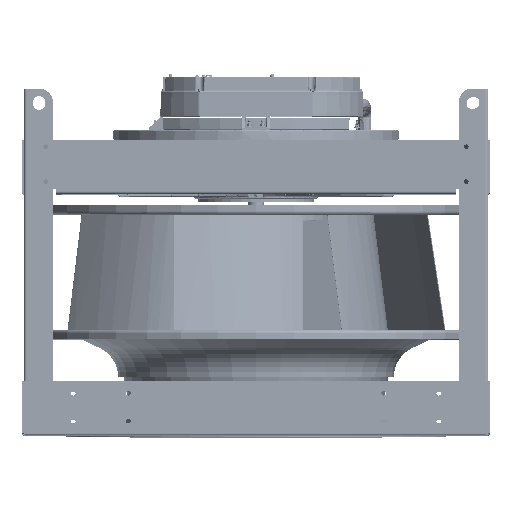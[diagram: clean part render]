
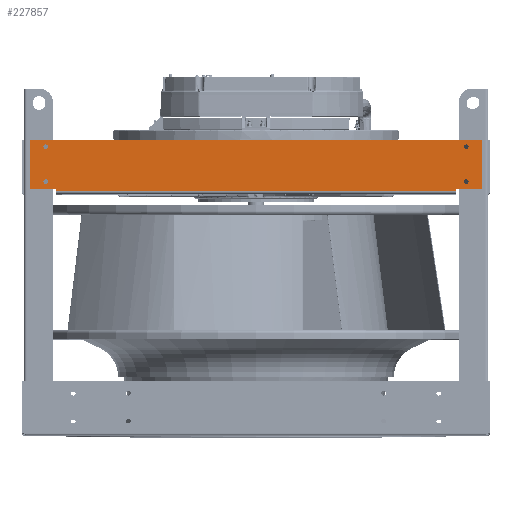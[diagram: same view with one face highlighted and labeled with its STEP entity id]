
A CAD part, top view. The second image highlights one B-rep face of the part: STEP entity #227857.
In plain terms, the highlighted planar face has unit normal (0, 0, 1).
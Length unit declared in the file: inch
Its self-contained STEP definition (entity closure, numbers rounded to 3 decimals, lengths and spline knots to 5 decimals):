
#4130 = VECTOR ( 'NONE', #214966, 39.37008 ) ;
#4233 = VERTEX_POINT ( 'NONE', #88463 ) ;
#7674 = DIRECTION ( 'NONE',  ( 0., 0., 1. ) ) ;
#8712 = DIRECTION ( 'NONE',  ( -1., 0., 0. ) ) ;
#8824 = EDGE_CURVE ( 'NONE', #4233, #4233, #214598, .T. ) ;
#17855 = ORIENTED_EDGE ( 'NONE', *, *, #131734, .T. ) ;
#23976 = CARTESIAN_POINT ( 'NONE',  ( 0., 0., 0.135 ) ) ;
#24512 = CARTESIAN_POINT ( 'NONE',  ( -14.545, 1.77, 0.135 ) ) ;
#24676 = VERTEX_POINT ( 'NONE', #86783 ) ;
#26705 = DIRECTION ( 'NONE',  ( 0., 0., -1. ) ) ;
#34194 = CARTESIAN_POINT ( 'NONE',  ( 15.295, 1.27, 0.135 ) ) ;
#40634 = LINE ( 'NONE', #123502, #140418 ) ;
#41977 = FACE_OUTER_BOUND ( 'NONE', #240468, .T. ) ;
#42560 = LINE ( 'NONE', #248442, #221996 ) ;
#47063 = ORIENTED_EDGE ( 'NONE', *, *, #168185, .T. ) ;
#55496 = CARTESIAN_POINT ( 'NONE',  ( -14.545, 1.9775, 0.135 ) ) ;
#56812 = VECTOR ( 'NONE', #266251, 39.37008 ) ;
#58080 = ORIENTED_EDGE ( 'NONE', *, *, #172983, .T. ) ;
#60918 = DIRECTION ( 'NONE',  ( 1., 0., 0. ) ) ;
#64077 = VERTEX_POINT ( 'NONE', #166260 ) ;
#70086 = DIRECTION ( 'NONE',  ( 0., -1., 0. ) ) ;
#74316 = CARTESIAN_POINT ( 'NONE',  ( -16.455, 1.77, 0.135 ) ) ;
#78828 = CARTESIAN_POINT ( 'NONE',  ( 14.545, 1.77, 0.135 ) ) ;
#79857 = AXIS2_PLACEMENT_3D ( 'NONE', #23976, #26705, #86131 ) ;
#80155 = ORIENTED_EDGE ( 'NONE', *, *, #188634, .T. ) ;
#80830 = CARTESIAN_POINT ( 'NONE',  ( 14.545, 1.9775, 0.135 ) ) ;
#81274 = DIRECTION ( 'NONE',  ( 0., 1., 0. ) ) ;
#81498 = AXIS2_PLACEMENT_3D ( 'NONE', #108594, #7674, #87841 ) ;
#81636 = CARTESIAN_POINT ( 'NONE',  ( -15.295, 1.27, 0.135 ) ) ;
#81750 = EDGE_CURVE ( 'NONE', #243969, #94156, #243336, .T. ) ;
#83779 = AXIS2_PLACEMENT_3D ( 'NONE', #34194, #270287, #97719 ) ;
#84530 = DIRECTION ( 'NONE',  ( -1., 0., 0. ) ) ;
#86131 = DIRECTION ( 'NONE',  ( -1., 0., 0. ) ) ;
#86540 = LINE ( 'NONE', #253722, #4130 ) ;
#86783 = CARTESIAN_POINT ( 'NONE',  ( -16.455, 1.77, 0.135 ) ) ;
#87841 = DIRECTION ( 'NONE',  ( 1., 0., 0. ) ) ;
#88463 = CARTESIAN_POINT ( 'NONE',  ( -15.467, -1.27, 0.135 ) ) ;
#88867 = CARTESIAN_POINT ( 'NONE',  ( -15.295, -1.27, 0.135 ) ) ;
#93483 = LINE ( 'NONE', #180450, #192106 ) ;
#93983 = CARTESIAN_POINT ( 'NONE',  ( -16.455, -1.77, 0.135 ) ) ;
#94156 = VERTEX_POINT ( 'NONE', #24512 ) ;
#97719 = DIRECTION ( 'NONE',  ( -1., 0., 0. ) ) ;
#98165 = AXIS2_PLACEMENT_3D ( 'NONE', #81636, #107803, #60918 ) ;
#107803 = DIRECTION ( 'NONE',  ( 0., 0., 1. ) ) ;
#108594 = CARTESIAN_POINT ( 'NONE',  ( 15.295, -1.27, 0.135 ) ) ;
#109778 = ORIENTED_EDGE ( 'NONE', *, *, #122905, .T. ) ;
#118469 = LINE ( 'NONE', #74316, #56812 ) ;
#120004 = EDGE_CURVE ( 'NONE', #64077, #64077, #199495, .T. ) ;
#122905 = EDGE_CURVE ( 'NONE', #230942, #136012, #42560, .T. ) ;
#123502 = CARTESIAN_POINT ( 'NONE',  ( 14.545, 1.9775, 0.135 ) ) ;
#128665 = LINE ( 'NONE', #211603, #150579 ) ;
#131339 = ORIENTED_EDGE ( 'NONE', *, *, #8824, .F. ) ;
#131734 = EDGE_CURVE ( 'NONE', #180287, #243969, #40634, .T. ) ;
#135646 = VERTEX_POINT ( 'NONE', #199215 ) ;
#136012 = VERTEX_POINT ( 'NONE', #152970 ) ;
#140418 = VECTOR ( 'NONE', #227129, 39.37008 ) ;
#146853 = VERTEX_POINT ( 'NONE', #78828 ) ;
#150579 = VECTOR ( 'NONE', #84530, 39.37008 ) ;
#150660 = ORIENTED_EDGE ( 'NONE', *, *, #81750, .T. ) ;
#152970 = CARTESIAN_POINT ( 'NONE',  ( 16.455, 1.77, 0.135 ) ) ;
#165370 = EDGE_LOOP ( 'NONE', ( #131339 ) ) ;
#166260 = CARTESIAN_POINT ( 'NONE',  ( -15.123, 1.27, 0.135 ) ) ;
#167509 = VECTOR ( 'NONE', #179768, 39.37008 ) ;
#168185 = EDGE_CURVE ( 'NONE', #24676, #236136, #86540, .T. ) ;
#170358 = PLANE ( 'NONE',  #79857 ) ;
#172983 = EDGE_CURVE ( 'NONE', #136012, #146853, #128665, .T. ) ;
#174717 = EDGE_LOOP ( 'NONE', ( #208022 ) ) ;
#175728 = ORIENTED_EDGE ( 'NONE', *, *, #222078, .T. ) ;
#179768 = DIRECTION ( 'NONE',  ( 0., -1., 0. ) ) ;
#180287 = VERTEX_POINT ( 'NONE', #80830 ) ;
#180450 = CARTESIAN_POINT ( 'NONE',  ( 14.545, 1.9775, 0.135 ) ) ;
#180917 = CARTESIAN_POINT ( 'NONE',  ( -16.455, -1.77, 0.135 ) ) ;
#182464 = ORIENTED_EDGE ( 'NONE', *, *, #228877, .F. ) ;
#188323 = CARTESIAN_POINT ( 'NONE',  ( 15.123, 1.27, 0.135 ) ) ;
#188634 = EDGE_CURVE ( 'NONE', #236136, #230942, #198991, .T. ) ;
#192106 = VECTOR ( 'NONE', #70086, 39.37008 ) ;
#198991 = LINE ( 'NONE', #93983, #204958 ) ;
#199215 = CARTESIAN_POINT ( 'NONE',  ( 15.467, -1.27, 0.135 ) ) ;
#199495 = CIRCLE ( 'NONE', #98165, 0.172 ) ;
#204958 = VECTOR ( 'NONE', #262537, 39.37008 ) ;
#207606 = ORIENTED_EDGE ( 'NONE', *, *, #260621, .F. ) ;
#208022 = ORIENTED_EDGE ( 'NONE', *, *, #257850, .F. ) ;
#209458 = CIRCLE ( 'NONE', #81498, 0.172 ) ;
#211603 = CARTESIAN_POINT ( 'NONE',  ( -16.455, 1.77, 0.135 ) ) ;
#213184 = FACE_BOUND ( 'NONE', #165370, .T. ) ;
#214598 = CIRCLE ( 'NONE', #223471, 0.172 ) ;
#214966 = DIRECTION ( 'NONE',  ( 0., -1., 0. ) ) ;
#215917 = FACE_BOUND ( 'NONE', #219757, .T. ) ;
#215948 = DIRECTION ( 'NONE',  ( 0., 0., 1. ) ) ;
#218767 = EDGE_LOOP ( 'NONE', ( #255409 ) ) ;
#219757 = EDGE_LOOP ( 'NONE', ( #182464 ) ) ;
#221996 = VECTOR ( 'NONE', #81274, 39.37008 ) ;
#222078 = EDGE_CURVE ( 'NONE', #94156, #24676, #118469, .T. ) ;
#223471 = AXIS2_PLACEMENT_3D ( 'NONE', #88867, #215948, #8712 ) ;
#224969 = CIRCLE ( 'NONE', #83779, 0.172 ) ;
#227129 = DIRECTION ( 'NONE',  ( -1., 0., 0. ) ) ;
#227857 = ADVANCED_FACE ( 'NONE', ( #41977, #213184, #256023, #257358, #215917 ), #170358, .F. ) ;
#228877 = EDGE_CURVE ( 'NONE', #229796, #229796, #224969, .T. ) ;
#229796 = VERTEX_POINT ( 'NONE', #188323 ) ;
#230942 = VERTEX_POINT ( 'NONE', #268281 ) ;
#236136 = VERTEX_POINT ( 'NONE', #180917 ) ;
#240468 = EDGE_LOOP ( 'NONE', ( #47063, #80155, #109778, #58080, #207606, #17855, #150660, #175728 ) ) ;
#243336 = LINE ( 'NONE', #55496, #167509 ) ;
#243969 = VERTEX_POINT ( 'NONE', #259415 ) ;
#248442 = CARTESIAN_POINT ( 'NONE',  ( 16.455, -1.77, 0.135 ) ) ;
#253722 = CARTESIAN_POINT ( 'NONE',  ( -16.455, -1.77, 0.135 ) ) ;
#255409 = ORIENTED_EDGE ( 'NONE', *, *, #120004, .F. ) ;
#256023 = FACE_BOUND ( 'NONE', #218767, .T. ) ;
#257358 = FACE_BOUND ( 'NONE', #174717, .T. ) ;
#257850 = EDGE_CURVE ( 'NONE', #135646, #135646, #209458, .T. ) ;
#259415 = CARTESIAN_POINT ( 'NONE',  ( -14.545, 1.9775, 0.135 ) ) ;
#260621 = EDGE_CURVE ( 'NONE', #180287, #146853, #93483, .T. ) ;
#262537 = DIRECTION ( 'NONE',  ( 1., 0., 0. ) ) ;
#266251 = DIRECTION ( 'NONE',  ( -1., 0., 0. ) ) ;
#268281 = CARTESIAN_POINT ( 'NONE',  ( 16.455, -1.77, 0.135 ) ) ;
#270287 = DIRECTION ( 'NONE',  ( 0., 0., 1. ) ) ;
